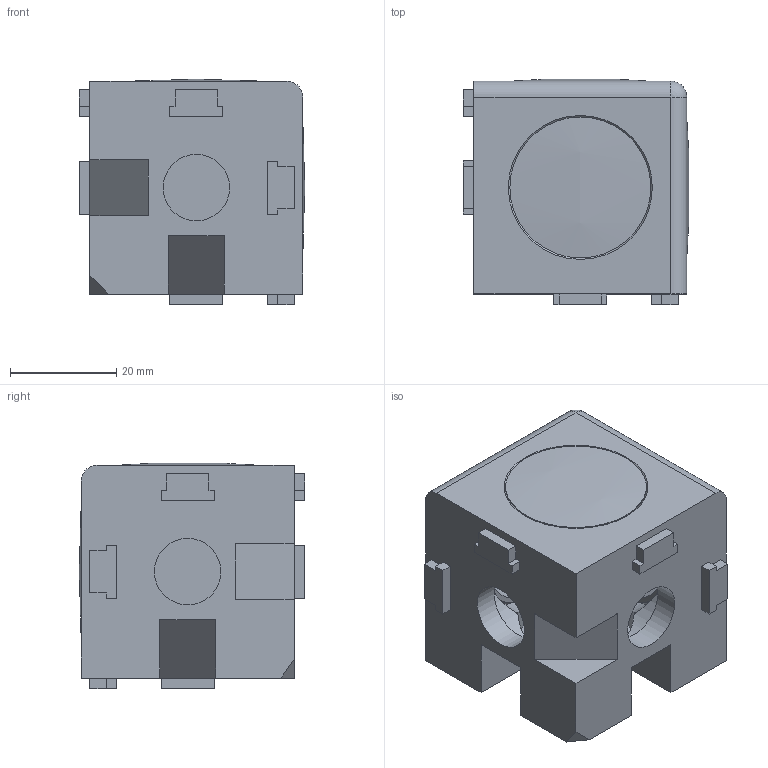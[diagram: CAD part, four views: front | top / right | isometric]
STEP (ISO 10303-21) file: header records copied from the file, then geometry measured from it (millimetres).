
FILE_DESCRIPTION(/* description */ ('STEP AP203'),/* implementation_level */ '2;1');
FILE_NAME(/* name */ 'Cube Corner Bracket - 40 Series - 3 Way.step',/* time_stamp */ '2025-06-29T02:12:22+03:00',/* author */ (''),/* organization */ (''),/* preprocessor_version */ 'ST-DEVELOPER v20.1',/* originating_system */ 'Autodesk Translation Framework v14.10.0.0',/* authorisation */ '');
FILE_SCHEMA (('AUTOMOTIVE_DESIGN { 1 0 10303 214 3 1 1 }'));
Length unit declared in the file: millimetre
Products named in the file (3): 3802.008.100; 3802.008.003; 3801.4040
Assembly tree (4 placements, depth 2):
  3802.008.100
    3802.008.003
    3801.4040  x3
Bounding box: 42.38 x 42.38 x 42.38 mm (x, y, z)
Volume: 36628.9 mm3; surface area: 18611 mm2
Topology: 4 solids, 4 shells, 167 faces, 444 edges, 292 vertices
Faces by surface type: plane 79, cylinder 33, cone 27, torus 24, sphere 4
Full cylindrical faces by diameter (mm): 12.5 x3, 22 x3, 24 x3, 26.5 x3
Entity records: 4048 total; most frequent: CARTESIAN_POINT 1005, ORIENTED_EDGE 626, DIRECTION 594, EDGE_CURVE 313, VERTEX_POINT 206, LINE 204, VECTOR 204, AXIS2_PLACEMENT_3D 195
